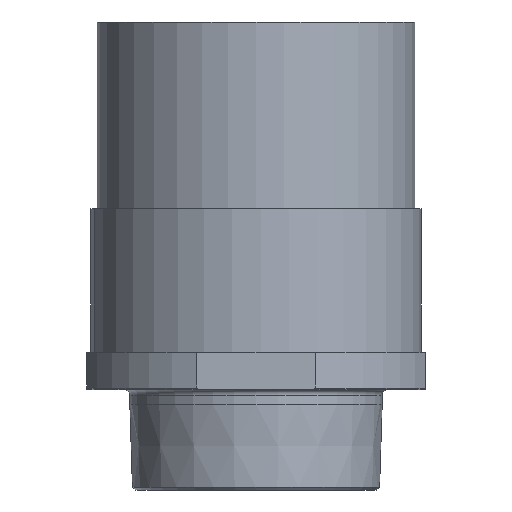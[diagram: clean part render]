
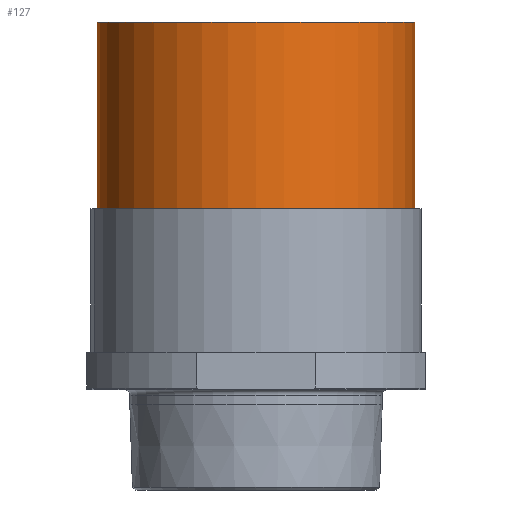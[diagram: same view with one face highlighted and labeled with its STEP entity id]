
A CAD part, front view. The second image highlights one B-rep face of the part: STEP entity #127.
In plain terms, the highlighted cylindrical face has radius 55.25 mm (diameter 110.5 mm), a partial arc.
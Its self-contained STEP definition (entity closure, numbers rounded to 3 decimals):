
#44 = VERTEX_POINT ( 'NONE', #59 ) ;
#59 = CARTESIAN_POINT ( 'NONE',  ( 55.25, 0., 65. ) ) ;
#127 = ADVANCED_FACE ( 'NONE', ( #648 ), #656, .T. ) ;
#516 = EDGE_LOOP ( 'NONE', ( #534, #535, #536, #537 ) ) ;
#534 = ORIENTED_EDGE ( 'NONE', *, *, #1171, .F. ) ;
#535 = ORIENTED_EDGE ( 'NONE', *, *, #1174, .F. ) ;
#536 = ORIENTED_EDGE ( 'NONE', *, *, #1173, .T. ) ;
#537 = ORIENTED_EDGE ( 'NONE', *, *, #1176, .T. ) ;
#648 = FACE_OUTER_BOUND ( 'NONE', #516, .T. ) ;
#656 = CYLINDRICAL_SURFACE ( 'NONE', #878, 55.25 ) ;
#814 = LINE ( 'NONE', #2601, #818 ) ;
#817 = CIRCLE ( 'NONE', #2755, 55.25 ) ;
#818 = VECTOR ( 'NONE', #2599, 1000. ) ;
#819 = LINE ( 'NONE', #2605, #821 ) ;
#821 = VECTOR ( 'NONE', #2600, 1000. ) ;
#823 = CIRCLE ( 'NONE', #2757, 55.25 ) ;
#878 = AXIS2_PLACEMENT_3D ( 'NONE', #1428, #1429, #1437 ) ;
#1171 = EDGE_CURVE ( 'NONE', #44, #2087, #814, .T. ) ;
#1173 = EDGE_CURVE ( 'NONE', #2093, #2085, #819, .T. ) ;
#1174 = EDGE_CURVE ( 'NONE', #2093, #44, #817, .T. ) ;
#1176 = EDGE_CURVE ( 'NONE', #2085, #2087, #823, .T. ) ;
#1428 = CARTESIAN_POINT ( 'NONE',  ( 0., 0., 65. ) ) ;
#1429 = DIRECTION ( 'NONE',  ( 0., 0., -1. ) ) ;
#1437 = DIRECTION ( 'NONE',  ( -1., 0., 0. ) ) ;
#2085 = VERTEX_POINT ( 'NONE', #2707 ) ;
#2087 = VERTEX_POINT ( 'NONE', #2725 ) ;
#2093 = VERTEX_POINT ( 'NONE', #2729 ) ;
#2599 = DIRECTION ( 'NONE',  ( 0., 0., -1. ) ) ;
#2600 = DIRECTION ( 'NONE',  ( 0., 0., -1. ) ) ;
#2601 = CARTESIAN_POINT ( 'NONE',  ( 55.25, 0., 65. ) ) ;
#2605 = CARTESIAN_POINT ( 'NONE',  ( -55.25, 0., 65. ) ) ;
#2609 = CARTESIAN_POINT ( 'NONE',  ( 0., 0., 65. ) ) ;
#2610 = DIRECTION ( 'NONE',  ( 0., 0., 1. ) ) ;
#2611 = DIRECTION ( 'NONE',  ( 1., 0., 0. ) ) ;
#2617 = CARTESIAN_POINT ( 'NONE',  ( 0., 0., -50. ) ) ;
#2618 = DIRECTION ( 'NONE',  ( 0., 0., 1. ) ) ;
#2619 = DIRECTION ( 'NONE',  ( 1., 0., 0. ) ) ;
#2707 = CARTESIAN_POINT ( 'NONE',  ( -55.25, 0., -50. ) ) ;
#2725 = CARTESIAN_POINT ( 'NONE',  ( 55.25, 0., -50. ) ) ;
#2729 = CARTESIAN_POINT ( 'NONE',  ( -55.25, 0., 65. ) ) ;
#2755 = AXIS2_PLACEMENT_3D ( 'NONE', #2609, #2610, #2611 ) ;
#2757 = AXIS2_PLACEMENT_3D ( 'NONE', #2617, #2618, #2619 ) ;
